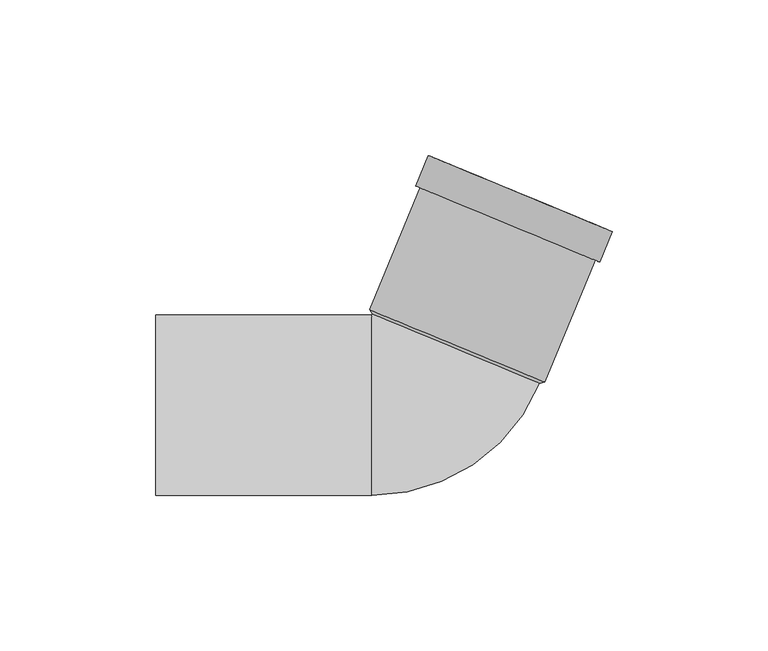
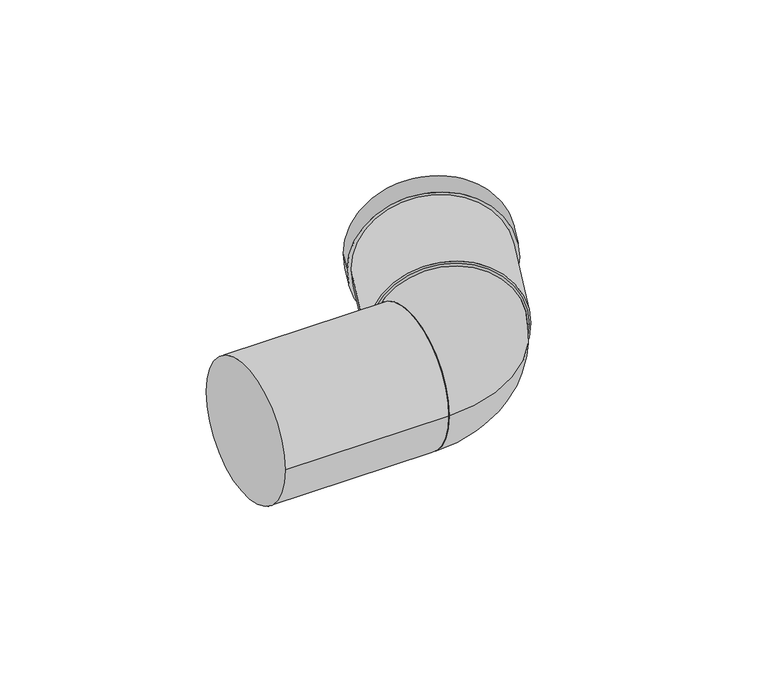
"""IFC4 building model written with IfcOpenShell, lengths in millimetres: pipe fitting geometry, Superdrain SKB Bend : Superdrain SKB Bend."""

from ifc_helpers import new_model, si_unit, point, frame, origin, origin_2d, place, context, project, spatial, polyline, circle_curve, ellipse_curve, trimmed, segment, composite_curve, outline, extrude, source, transform, mapped, element, save
from ifc_brep_helpers import plane_surface, revolved_surface, advanced_brep


def pipe_fitting_08ce48a5(model_context):
    return source(origin(), model_context, "Body", "SolidModel", [
        advanced_brep(
        [(34.2931017, 7.0102193, 0.0), (-19.2919112, 29.2058584, 0.0), (-19.6, -29.0, 0.0), (-19.6, 29.0, 0.0)],
        [
            (0, 1, circle_curve(frame((7.5005953, 18.1080388, 0.0), z_axis=(0.382683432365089, 0.9238795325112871, 0.0), x_axis=(-0.9238795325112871, 0.382683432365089, 0.0)), 29.0)),
            (1, 0, circle_curve(frame((7.5005953, 18.1080388, 0.0), z_axis=(0.38268343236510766, 0.9238795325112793, 0.0), x_axis=(-0.9238795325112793, 0.38268343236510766, 0.0)), 29.0)),
            (2, 3, circle_curve(frame((-19.6, 0.0, 0.0), z_axis=(-1.0, 0.0, 0.0), x_axis=(0.0, 1.0, 0.0)), 29.0)),
            (3, 2, circle_curve(frame((-19.6, 0.0, 0.0), z_axis=(-1.0, 0.0, 0.0), x_axis=(0.0, 1.0, 0.0)), 29.0)),
            (3, 1, circle_curve(frame((-19.6, 29.3334729, 0.0), z_axis=(0.0, 0.0, 1.0), x_axis=(1.0, 0.0, 0.0)), 0.3334729)),
            (0, 2, circle_curve(frame((-19.6, 29.3334729, 0.0), z_axis=(0.0, 0.0, -1.0), x_axis=(1.0, 0.0, 0.0)), 58.3334729)),
        ],
        [
            plane_surface(frame((7.5005953, 18.1080388, 0.0), z_axis=(0.38268343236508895, 0.9238795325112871, 0.0), x_axis=(0.0, 0.0, -1.0))),
            plane_surface(frame((-19.6, 0.0, 0.0), z_axis=(-1.0, 0.0, 0.0), x_axis=(0.0, 0.0, -1.0))),
            revolved_surface(trimmed(ellipse_curve(frame((9.7334729, 29.3334729, 0.0), z_axis=(0.0, -1.0, 0.0), x_axis=(-1.0, 0.0, 0.0)), 29.0, 29.0), [point((-19.2665271, 29.3334729, 0.0))], [point((38.7334729, 29.3334729, 0.0))], True, "CARTESIAN"), (-19.6, 29.3334729, 0.0), (0.0, 0.0, 1.0)),
            revolved_surface(trimmed(ellipse_curve(frame((9.7334729, 29.3334729, 0.0), z_axis=(0.0, -1.0, 0.0), x_axis=(-1.0, 0.0, 0.0)), 29.0, 29.0), [point((38.7334729, 29.3334729, 0.0))], [point((-19.2665271, 29.3334729, 0.0))], True, "CARTESIAN"), (-19.6, 29.3334729, 0.0), (0.0, 0.0, 1.0)),
        ],
        [
            (0, [[1, 2]]),
            (1, [[3, 4]]),
            (2, [[-4, 5, -1, 6]]),
            (3, [[-3, -6, -2, -5]]),
        ],
    ),
        extrude(outline(composite_curve([segment(trimmed(circle_curve(origin_2d(), 30.45), [point((0.0, 30.45))], [point((0.0, -30.45))], False, "CARTESIAN"), True, "CONTINUOUS"), segment(trimmed(circle_curve(origin_2d(), 30.45), [point((0.0, -30.45))], [point((0.0, 30.45))], False, "CARTESIAN"), True, "CONTINUOUS")], self_intersect=False), holes=[composite_curve([segment(trimmed(circle_curve(origin_2d(), 29.0), [point((0.0, 29.0))], [point((0.0, -28.9999999))], True, "CARTESIAN"), True, "CONTINUOUS"), segment(trimmed(circle_curve(origin_2d(), 29.0), [point((0.0, -28.9999999))], [point((0.0, 29.0))], True, "CARTESIAN"), True, "CONTINUOUS")], self_intersect=False)]), frame((7.8832787, 19.0319184, 0.0), z_axis=(0.38268343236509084, 0.9238795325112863, 0.0), x_axis=(0.0, 0.0, 1.0)), (0.0, 0.0, 1.0), 53.0),
        extrude(outline(composite_curve([segment(trimmed(circle_curve(origin_2d(), 31.9725), [point((0.0, -31.9725))], [point((0.0, 31.9725))], False, "CARTESIAN"), True, "CONTINUOUS"), segment(trimmed(circle_curve(origin_2d(), 31.9725), [point((0.0, 31.9725))], [point((0.0, -31.9725))], False, "CARTESIAN"), True, "CONTINUOUS")], self_intersect=False), holes=[composite_curve([segment(trimmed(circle_curve(origin_2d(), 29.0), [point((0.0, -29.0))], [point((0.0, 29.0))], True, "CARTESIAN"), True, "CONTINUOUS"), segment(trimmed(circle_curve(origin_2d(), 29.0), [point((0.0, 29.0))], [point((0.0, -29.0))], True, "CARTESIAN"), True, "CONTINUOUS")], self_intersect=False)]), frame((24.1090562, 58.2044105, 0.0), z_axis=(0.3826834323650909, 0.9238795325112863, 0.0), x_axis=(0.0, 0.0, 1.0)), (0.0, 0.0, 1.0), 10.6),
        advanced_brep(
        [(36.0154105, 7.3792079, 0.0), (-20.2488531, 30.6846289, 0.0), (34.2931017, 7.0102193, 0.0), (-19.2919112, 29.2058584, 0.0)],
        [
            (0, 1, circle_curve(frame((7.8832787, 19.0319184, 0.0), z_axis=(0.3826834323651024, 0.9238795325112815, 0.0), x_axis=(0.9238795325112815, -0.3826834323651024, 0.0)), 30.45)),
            (1, 0, circle_curve(frame((7.8832787, 19.0319184, 0.0), z_axis=(0.3826834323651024, 0.9238795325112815, 0.0), x_axis=(-0.9238795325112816, 0.38268343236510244, 0.0)), 30.45)),
            (2, 3, circle_curve(frame((7.5005953, 18.1080388, 0.0), z_axis=(-0.3826834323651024, -0.9238795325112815, 0.0), x_axis=(-0.9238795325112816, 0.38268343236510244, 0.0)), 29.0)),
            (3, 2, circle_curve(frame((7.5005953, 18.1080388, 0.0), z_axis=(-0.3826834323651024, -0.9238795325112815, 0.0), x_axis=(0.9238795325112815, -0.3826834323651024, 0.0)), 29.0)),
            (3, 1),
            (0, 2),
        ],
        [
            plane_surface(frame((7.8832787, 19.0319184, 0.0), z_axis=(0.38268343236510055, 0.9238795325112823, 0.0), x_axis=(0.0, 0.0, -1.0))),
            plane_surface(frame((7.5005953, 18.1080388, 0.0), z_axis=(-0.38268343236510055, -0.9238795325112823, 0.0), x_axis=(0.0, 0.0, -1.0))),
            revolved_surface(polyline([(-19.291911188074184, 29.205858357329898, 0.0), (-20.24885315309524, 30.68462898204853, 0.0)]), (-0.1530734, -0.3695518, 0.0), (0.3826834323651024, 0.9238795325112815, 0.0)),
            revolved_surface(polyline([(34.293101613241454, 7.010219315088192, 0.0), (36.0154105, 7.3792079, 0.0)]), (-0.1530734, -0.3695518, 0.0), (0.3826834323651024, 0.9238795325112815, 0.0)),
        ],
        [
            (0, [[1, 2]]),
            (1, [[3, 4]]),
            (2, [[-4, 5, -1, 6]]),
            (3, [[-3, -6, -2, -5]]),
        ],
    ),
        extrude(outline(composite_curve([segment(trimmed(circle_curve(origin_2d(), 29.0), [point((-29.0, 0.0))], [point((29.0, 0.0))], False, "CARTESIAN"), True, "CONTINUOUS"), segment(trimmed(circle_curve(origin_2d(), 29.0), [point((29.0, 0.0))], [point((-29.0, 0.0))], False, "CARTESIAN"), True, "CONTINUOUS")], self_intersect=False)), frame((-89.0, 0.0, 0.0), z_axis=(1.0, 0.0, 0.0), x_axis=(0.0, 1.0, 0.0)), (0.0, 0.0, 1.0), 69.4),
    ])


if __name__ == "__main__":
    model = new_model("IFC4")
    model_context = context("Model", 3, world=origin())
    ifc_project = project(units=[si_unit("LENGTHUNIT", "METRE", prefix="MILLI")], contexts=[model_context])
    site = spatial("IfcSite", under=ifc_project)
    building = spatial("IfcBuilding", under=site)
    placement = place(None, origin())
    pipe_fitting_shape = pipe_fitting_08ce48a5(model_context)
    element("IfcPipeFitting", 1, ObjectType="Superdrain SKB Bend : Superdrain SKB Bend", at=placement, inside=building, context=model_context, shape_type="MappedRepresentation", body=[
        mapped(pipe_fitting_shape, transform((0.0, 0.0, 0.0), x_axis=(1.0, 0.0, 0.0), y_axis=(0.0, 1.0, 0.0), z_axis=(0.0, 0.0, 1.0))),
    ])
    save(model, "model.ifc")
